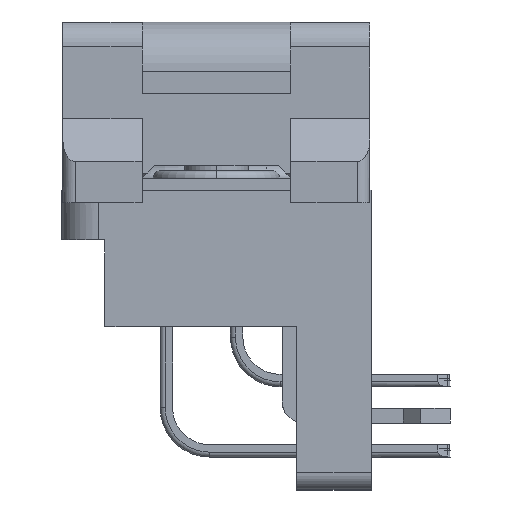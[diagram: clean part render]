
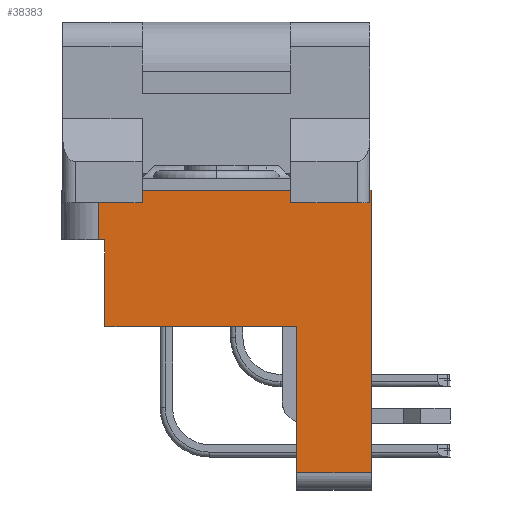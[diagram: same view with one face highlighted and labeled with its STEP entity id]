
A CAD part, left-side view. The second image highlights one B-rep face of the part: STEP entity #38383.
In plain terms, the highlighted planar face has unit normal (-1, 0, 0).
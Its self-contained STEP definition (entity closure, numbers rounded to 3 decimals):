
#874 = LINE ( 'NONE', #928, #7107 ) ;
#928 = CARTESIAN_POINT ( 'NONE',  ( -26.5, -3.25, -5.5 ) ) ;
#1480 = ORIENTED_EDGE ( 'NONE', *, *, #41531, .T. ) ;
#1498 = LINE ( 'NONE', #25636, #49018 ) ;
#1692 = VECTOR ( 'NONE', #22170, 1000. ) ;
#1731 = ORIENTED_EDGE ( 'NONE', *, *, #34523, .F. ) ;
#1774 = CARTESIAN_POINT ( 'NONE',  ( -26.5, 6.25, -5.5 ) ) ;
#1832 = VECTOR ( 'NONE', #18537, 1000. ) ;
#2173 = EDGE_CURVE ( 'NONE', #35975, #11383, #29860, .T. ) ;
#2199 = LINE ( 'NONE', #13795, #5946 ) ;
#2537 = LINE ( 'NONE', #14091, #22961 ) ;
#2797 = LINE ( 'NONE', #39360, #17670 ) ;
#4505 = CARTESIAN_POINT ( 'NONE',  ( -26.5, 6.25, -0.5 ) ) ;
#5043 = ORIENTED_EDGE ( 'NONE', *, *, #40902, .F. ) ;
#5946 = VECTOR ( 'NONE', #22259, 1000. ) ;
#6889 = LINE ( 'NONE', #25808, #16162 ) ;
#7107 = VECTOR ( 'NONE', #32530, 1000. ) ;
#7140 = VECTOR ( 'NONE', #14609, 1000. ) ;
#7276 = CARTESIAN_POINT ( 'NONE',  ( -26.5, 4.5, -5.5 ) ) ;
#7404 = LINE ( 'NONE', #4505, #40689 ) ;
#8465 = ORIENTED_EDGE ( 'NONE', *, *, #17229, .T. ) ;
#8837 = EDGE_CURVE ( 'NONE', #33725, #40171, #2199, .T. ) ;
#10498 = EDGE_LOOP ( 'NONE', ( #20717, #39644, #8465, #22541, #19157, #47423, #41672, #1731, #29232, #32359, #5043, #23906, #1480, #12519 ) ) ;
#10526 = LINE ( 'NONE', #7276, #49344 ) ;
#11073 = DIRECTION ( 'NONE',  ( 0., 0., 1. ) ) ;
#11383 = VERTEX_POINT ( 'NONE', #35860 ) ;
#11962 = VECTOR ( 'NONE', #38892, 1000. ) ;
#12519 = ORIENTED_EDGE ( 'NONE', *, *, #25527, .T. ) ;
#12538 = CARTESIAN_POINT ( 'NONE',  ( -26.5, -6.2, 0. ) ) ;
#13549 = DIRECTION ( 'NONE',  ( 0., 0., 1. ) ) ;
#13795 = CARTESIAN_POINT ( 'NONE',  ( -26.5, 3., -5.5 ) ) ;
#13911 = DIRECTION ( 'NONE',  ( 0., -1., 0. ) ) ;
#13925 = DIRECTION ( 'NONE',  ( 0., -1., 0. ) ) ;
#14091 = CARTESIAN_POINT ( 'NONE',  ( -26.5, 4.75, -5.5 ) ) ;
#14527 = VECTOR ( 'NONE', #39797, 1000. ) ;
#14609 = DIRECTION ( 'NONE',  ( 0., 0., 1. ) ) ;
#15982 = CARTESIAN_POINT ( 'NONE',  ( -26.5, 4.5, -5.5 ) ) ;
#16162 = VECTOR ( 'NONE', #49088, 1000. ) ;
#17229 = EDGE_CURVE ( 'NONE', #40171, #37057, #7404, .T. ) ;
#17670 = VECTOR ( 'NONE', #43007, 1000. ) ;
#18367 = CARTESIAN_POINT ( 'NONE',  ( -26.5, 6.25, -0.5 ) ) ;
#18537 = DIRECTION ( 'NONE',  ( 0., 1., 0. ) ) ;
#19157 = ORIENTED_EDGE ( 'NONE', *, *, #48430, .T. ) ;
#19316 = VERTEX_POINT ( 'NONE', #24531 ) ;
#20717 = ORIENTED_EDGE ( 'NONE', *, *, #30937, .F. ) ;
#21056 = LINE ( 'NONE', #18367, #1832 ) ;
#21350 = CARTESIAN_POINT ( 'NONE',  ( -26.5, -3.25, -5.5 ) ) ;
#21507 = CARTESIAN_POINT ( 'NONE',  ( -26.5, -6.2, -5.5 ) ) ;
#22170 = DIRECTION ( 'NONE',  ( 0., 0., -1. ) ) ;
#22259 = DIRECTION ( 'NONE',  ( 0., 0., -1. ) ) ;
#22541 = ORIENTED_EDGE ( 'NONE', *, *, #40852, .T. ) ;
#22961 = VECTOR ( 'NONE', #38042, 1000. ) ;
#23084 = VERTEX_POINT ( 'NONE', #21350 ) ;
#23769 = LINE ( 'NONE', #27555, #14527 ) ;
#23829 = VERTEX_POINT ( 'NONE', #12538 ) ;
#23906 = ORIENTED_EDGE ( 'NONE', *, *, #38387, .T. ) ;
#23957 = FACE_OUTER_BOUND ( 'NONE', #10498, .T. ) ;
#24531 = CARTESIAN_POINT ( 'NONE',  ( -26.5, -6.2, -0.5 ) ) ;
#25527 = EDGE_CURVE ( 'NONE', #42627, #34565, #41076, .T. ) ;
#25636 = CARTESIAN_POINT ( 'NONE',  ( -26.5, 6.25, 0. ) ) ;
#25806 = CARTESIAN_POINT ( 'NONE',  ( -26.5, 3., 0. ) ) ;
#25808 = CARTESIAN_POINT ( 'NONE',  ( -26.5, 6.25, -5.5 ) ) ;
#27555 = CARTESIAN_POINT ( 'NONE',  ( -26.5, -6.25, -5.5 ) ) ;
#28721 = CARTESIAN_POINT ( 'NONE',  ( -26.5, -3., 0. ) ) ;
#29232 = ORIENTED_EDGE ( 'NONE', *, *, #2173, .T. ) ;
#29706 = LINE ( 'NONE', #37546, #43930 ) ;
#29860 = LINE ( 'NONE', #46506, #11962 ) ;
#30067 = DIRECTION ( 'NONE',  ( -1., 0., 0. ) ) ;
#30770 = EDGE_CURVE ( 'NONE', #11383, #48775, #23769, .T. ) ;
#30937 = EDGE_CURVE ( 'NONE', #33725, #34565, #1498, .T. ) ;
#32359 = ORIENTED_EDGE ( 'NONE', *, *, #30770, .T. ) ;
#32530 = DIRECTION ( 'NONE',  ( 0., 0., 1. ) ) ;
#33725 = VERTEX_POINT ( 'NONE', #25806 ) ;
#34523 = EDGE_CURVE ( 'NONE', #35975, #23084, #874, .T. ) ;
#34565 = VERTEX_POINT ( 'NONE', #28721 ) ;
#35860 = CARTESIAN_POINT ( 'NONE',  ( -26.5, -6.25, -11.4 ) ) ;
#35975 = VERTEX_POINT ( 'NONE', #47412 ) ;
#36965 = CARTESIAN_POINT ( 'NONE',  ( -26.5, 4.75, -0.5 ) ) ;
#37057 = VERTEX_POINT ( 'NONE', #36965 ) ;
#37546 = CARTESIAN_POINT ( 'NONE',  ( -26.5, 6.25, 0. ) ) ;
#38042 = DIRECTION ( 'NONE',  ( 0., 0., -1. ) ) ;
#38383 = ADVANCED_FACE ( 'NONE', ( #23957 ), #45771, .T. ) ;
#38387 = EDGE_CURVE ( 'NONE', #23829, #19316, #43704, .T. ) ;
#38892 = DIRECTION ( 'NONE',  ( 0., -1., 0. ) ) ;
#39360 = CARTESIAN_POINT ( 'NONE',  ( -26.5, 7.5, -2. ) ) ;
#39644 = ORIENTED_EDGE ( 'NONE', *, *, #8837, .T. ) ;
#39797 = DIRECTION ( 'NONE',  ( 0., 0., 1. ) ) ;
#40171 = VERTEX_POINT ( 'NONE', #48298 ) ;
#40290 = VERTEX_POINT ( 'NONE', #49286 ) ;
#40685 = DIRECTION ( 'NONE',  ( 0., 1., 0. ) ) ;
#40689 = VECTOR ( 'NONE', #40685, 1000. ) ;
#40852 = EDGE_CURVE ( 'NONE', #37057, #50800, #2537, .T. ) ;
#40902 = EDGE_CURVE ( 'NONE', #23829, #48775, #29706, .T. ) ;
#41076 = LINE ( 'NONE', #49721, #7140 ) ;
#41486 = CARTESIAN_POINT ( 'NONE',  ( -26.5, 4.75, -2. ) ) ;
#41531 = EDGE_CURVE ( 'NONE', #19316, #42627, #21056, .T. ) ;
#41624 = EDGE_CURVE ( 'NONE', #47294, #40290, #10526, .T. ) ;
#41672 = ORIENTED_EDGE ( 'NONE', *, *, #50789, .T. ) ;
#41732 = CARTESIAN_POINT ( 'NONE',  ( -26.5, -6.25, 0. ) ) ;
#42627 = VERTEX_POINT ( 'NONE', #44411 ) ;
#43007 = DIRECTION ( 'NONE',  ( 0., -1., 0. ) ) ;
#43704 = LINE ( 'NONE', #21507, #1692 ) ;
#43930 = VECTOR ( 'NONE', #13911, 1000. ) ;
#44402 = AXIS2_PLACEMENT_3D ( 'NONE', #1774, #30067, #13549 ) ;
#44411 = CARTESIAN_POINT ( 'NONE',  ( -26.5, -3., -0.5 ) ) ;
#45771 = PLANE ( 'NONE',  #44402 ) ;
#46506 = CARTESIAN_POINT ( 'NONE',  ( -26.5, -6.25, -11.4 ) ) ;
#47294 = VERTEX_POINT ( 'NONE', #15982 ) ;
#47412 = CARTESIAN_POINT ( 'NONE',  ( -26.5, -3.25, -11.4 ) ) ;
#47423 = ORIENTED_EDGE ( 'NONE', *, *, #41624, .F. ) ;
#48298 = CARTESIAN_POINT ( 'NONE',  ( -26.5, 3., -0.5 ) ) ;
#48430 = EDGE_CURVE ( 'NONE', #50800, #40290, #2797, .T. ) ;
#48775 = VERTEX_POINT ( 'NONE', #41732 ) ;
#49018 = VECTOR ( 'NONE', #13925, 1000. ) ;
#49088 = DIRECTION ( 'NONE',  ( 0., -1., 0. ) ) ;
#49286 = CARTESIAN_POINT ( 'NONE',  ( -26.5, 4.5, -2. ) ) ;
#49344 = VECTOR ( 'NONE', #11073, 1000. ) ;
#49721 = CARTESIAN_POINT ( 'NONE',  ( -26.5, -3., -5.5 ) ) ;
#50789 = EDGE_CURVE ( 'NONE', #47294, #23084, #6889, .T. ) ;
#50800 = VERTEX_POINT ( 'NONE', #41486 ) ;
